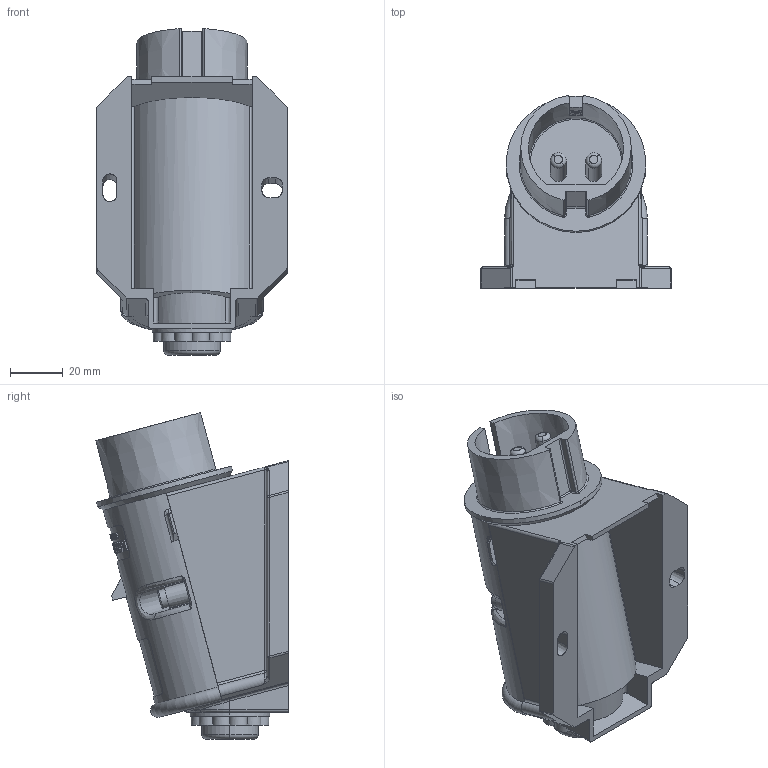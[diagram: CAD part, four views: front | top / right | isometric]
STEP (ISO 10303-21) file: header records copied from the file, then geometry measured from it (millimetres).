
FILE_DESCRIPTION((''),'2;1');
FILE_NAME('1116307_ASM_SW0001','2018-03-21T',('gisse'),('MENNEKES'),'PRO/ENGINEER BY PARAMETRIC TECHNOLOGY CORPORATION, 2015440','PRO/ENGINEER BY PARAMETRIC TECHNOLOGY CORPORATION, 2015440','');
FILE_SCHEMA(('AUTOMOTIVE_DESIGN { 1 0 10303 214 1 1 1 1 }'));
Length unit declared in the file: millimetre
Products named in the file (1): 1116307_ASM_SW0001
Bounding box: 72 x 72.64 x 123.34 mm (x, y, z)
Volume: 205940.2 mm3; surface area: 42475.8 mm2
Topology: 1 solids, 1 shells, 696 faces, 1845 edges, 1193 vertices
Faces by surface type: plane 347, cylinder 132, extrusion 106, bspline 66, cone 24, torus 15, sphere 6
Entity records: 33503 total; most frequent: CARTESIAN_POINT 9551, ORIENTED_EDGE 3682, DIRECTION 2803, EDGE_CURVE 1841, VERTEX_POINT 1193, FILL_AREA_STYLE_COLOUR 1145, FILL_AREA_STYLE 1145, SURFACE_STYLE_FILL_AREA 1145
